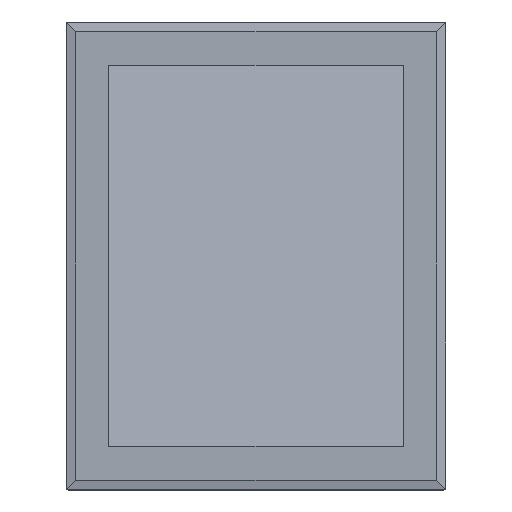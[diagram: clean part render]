
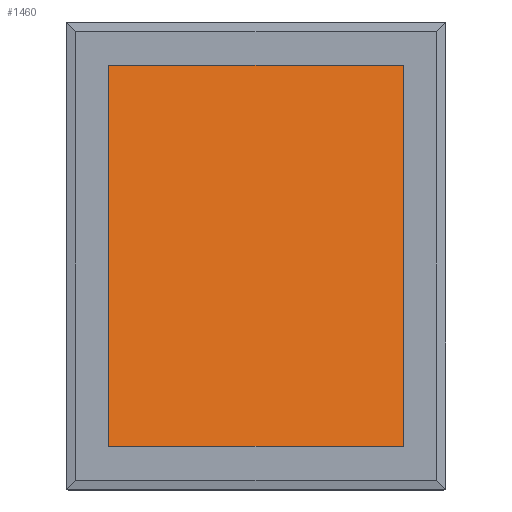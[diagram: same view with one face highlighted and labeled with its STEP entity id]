
A CAD part, top view. The second image highlights one B-rep face of the part: STEP entity #1460.
In plain terms, the highlighted planar face has unit normal (0, 0.182, 0.983).
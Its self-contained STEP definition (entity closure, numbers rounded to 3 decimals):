
#168=FACE_OUTER_BOUND('',#245,.T.);
#245=EDGE_LOOP('',(#1286,#1287,#1288,#1289));
#405=LINE('',#2476,#566);
#406=LINE('',#2478,#567);
#407=LINE('',#2480,#568);
#408=LINE('',#2481,#569);
#566=VECTOR('',#1961,304.8);
#567=VECTOR('',#1962,304.8);
#568=VECTOR('',#1963,304.8);
#569=VECTOR('',#1964,304.8);
#711=VERTEX_POINT('',#2474);
#712=VERTEX_POINT('',#2475);
#713=VERTEX_POINT('',#2477);
#714=VERTEX_POINT('',#2479);
#921=EDGE_CURVE('',#711,#712,#405,.T.);
#922=EDGE_CURVE('',#713,#711,#406,.T.);
#923=EDGE_CURVE('',#714,#713,#407,.T.);
#924=EDGE_CURVE('',#712,#714,#408,.T.);
#1286=ORIENTED_EDGE('',*,*,#921,.F.);
#1287=ORIENTED_EDGE('',*,*,#922,.F.);
#1288=ORIENTED_EDGE('',*,*,#923,.F.);
#1289=ORIENTED_EDGE('',*,*,#924,.F.);
#1385=PLANE('',#1578);
#1460=ADVANCED_FACE('',(#168),#1385,.F.);
#1578=AXIS2_PLACEMENT_3D('',#2473,#1959,#1960);
#1959=DIRECTION('center_axis',(0.,-0.182,-0.983));
#1960=DIRECTION('ref_axis',(-1.,0.,0.));
#1961=DIRECTION('',(1.,0.,0.));
#1962=DIRECTION('',(0.,0.983,-0.182));
#1963=DIRECTION('',(-1.,0.,0.));
#1964=DIRECTION('',(0.,-0.983,0.182));
#2473=CARTESIAN_POINT('Origin',(75.088,-222.303,25.729));
#2474=CARTESIAN_POINT('',(-75.088,97.116,-33.5));
#2475=CARTESIAN_POINT('',(75.088,97.116,-33.5));
#2476=CARTESIAN_POINT('',(-75.088,97.116,-33.5));
#2477=CARTESIAN_POINT('',(-75.088,-97.032,2.5));
#2478=CARTESIAN_POINT('',(-75.088,-97.032,2.5));
#2479=CARTESIAN_POINT('',(75.088,-97.032,2.5));
#2480=CARTESIAN_POINT('',(75.088,-97.032,2.5));
#2481=CARTESIAN_POINT('',(75.088,97.116,-33.5));
